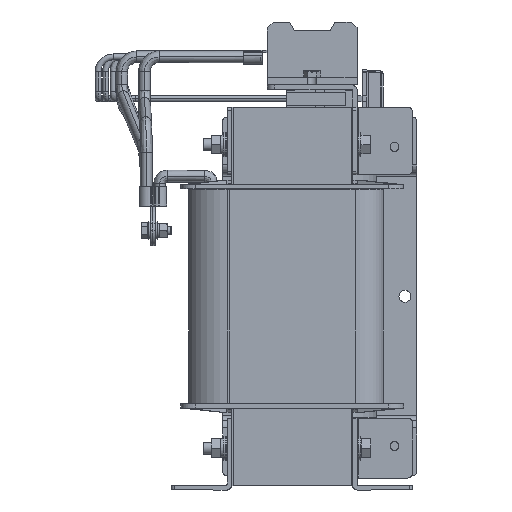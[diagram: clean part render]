
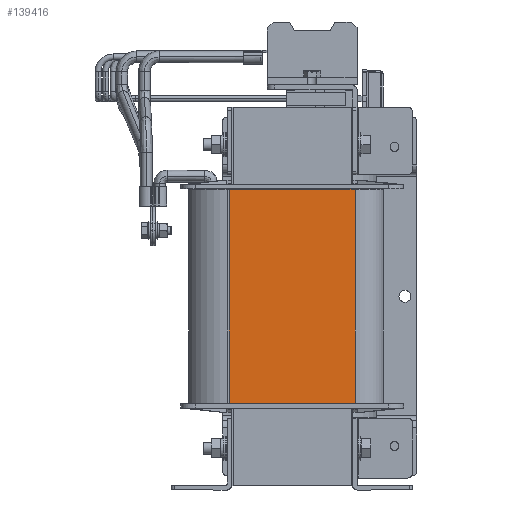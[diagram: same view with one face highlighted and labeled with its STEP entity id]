
A CAD part, left-side view. The second image highlights one B-rep face of the part: STEP entity #139416.
In plain terms, the highlighted planar face has unit normal (-1, 0, 0).
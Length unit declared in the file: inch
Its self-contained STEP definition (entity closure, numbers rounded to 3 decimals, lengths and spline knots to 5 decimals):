
#57 = CARTESIAN_POINT ( 'NONE',  ( -5.67953, 4.82686, 2.28347 ) ) ;
#10117 = DIRECTION ( 'NONE',  ( 0., -1., 0. ) ) ;
#11413 = CARTESIAN_POINT ( 'NONE',  ( -5.67953, 4.82686, 7.91339 ) ) ;
#16966 = LINE ( 'NONE', #109485, #134194 ) ;
#22729 = CARTESIAN_POINT ( 'NONE',  ( -5.67953, 3.29838, 7.91339 ) ) ;
#32630 = DIRECTION ( 'NONE',  ( 0., -1., 0. ) ) ;
#33282 = EDGE_CURVE ( 'NONE', #95587, #84860, #136497, .T. ) ;
#36465 = DIRECTION ( 'NONE',  ( 0., 0., -1. ) ) ;
#54953 = PLANE ( 'NONE',  #136679 ) ;
#55405 = VECTOR ( 'NONE', #32630, 39.37008 ) ;
#59472 = DIRECTION ( 'NONE',  ( 0., 0., 1. ) ) ;
#60175 = ORIENTED_EDGE ( 'NONE', *, *, #97223, .T. ) ;
#63044 = VECTOR ( 'NONE', #10117, 39.37008 ) ;
#67762 = LINE ( 'NONE', #147359, #63044 ) ;
#72748 = EDGE_CURVE ( 'NONE', #136553, #75125, #67762, .T. ) ;
#75125 = VERTEX_POINT ( 'NONE', #139432 ) ;
#76736 = CARTESIAN_POINT ( 'NONE',  ( -5.67953, 1.51171, 7.91339 ) ) ;
#84860 = VERTEX_POINT ( 'NONE', #76736 ) ;
#95587 = VERTEX_POINT ( 'NONE', #11413 ) ;
#97223 = EDGE_CURVE ( 'NONE', #95587, #136553, #103919, .T. ) ;
#100916 = EDGE_LOOP ( 'NONE', ( #147035, #60175, #126869, #103297 ) ) ;
#101188 = CARTESIAN_POINT ( 'NONE',  ( -5.67953, 4.82686, 2.28347 ) ) ;
#103297 = ORIENTED_EDGE ( 'NONE', *, *, #120383, .T. ) ;
#103919 = LINE ( 'NONE', #57, #112761 ) ;
#109485 = CARTESIAN_POINT ( 'NONE',  ( -5.67953, 1.51171, 2.28347 ) ) ;
#112761 = VECTOR ( 'NONE', #36465, 39.37008 ) ;
#120383 = EDGE_CURVE ( 'NONE', #75125, #84860, #16966, .T. ) ;
#126869 = ORIENTED_EDGE ( 'NONE', *, *, #72748, .T. ) ;
#130798 = DIRECTION ( 'NONE',  ( 0., 0., 1. ) ) ;
#134006 = CARTESIAN_POINT ( 'NONE',  ( -5.67953, 4.82686, 2.28347 ) ) ;
#134194 = VECTOR ( 'NONE', #130798, 39.37008 ) ;
#136112 = FACE_OUTER_BOUND ( 'NONE', #100916, .T. ) ;
#136497 = LINE ( 'NONE', #22729, #55405 ) ;
#136553 = VERTEX_POINT ( 'NONE', #134006 ) ;
#136679 = AXIS2_PLACEMENT_3D ( 'NONE', #101188, #147426, #59472 ) ;
#139416 = ADVANCED_FACE ( 'NONE', ( #136112 ), #54953, .T. ) ;
#139432 = CARTESIAN_POINT ( 'NONE',  ( -5.67953, 1.51171, 2.28347 ) ) ;
#147035 = ORIENTED_EDGE ( 'NONE', *, *, #33282, .F. ) ;
#147359 = CARTESIAN_POINT ( 'NONE',  ( -5.67953, 3.29838, 2.28347 ) ) ;
#147426 = DIRECTION ( 'NONE',  ( -1., 0., 0. ) ) ;
